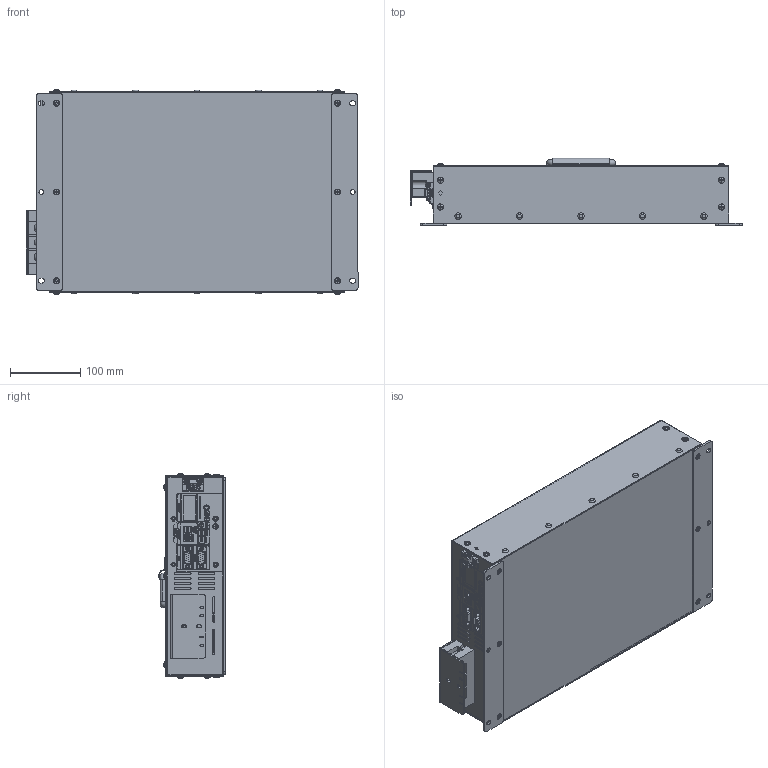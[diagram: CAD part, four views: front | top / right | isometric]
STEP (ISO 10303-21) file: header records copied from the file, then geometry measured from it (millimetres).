
FILE_DESCRIPTION(/* description */ (''),/* implementation_level */ '2;1');
FILE_NAME(/* name */ '',/* time_stamp */ '2026-05-27T08:59:49+09:00',/* author */ ('Administrator'),/* organization */ (''),/* preprocessor_version */ 'ST-DEVELOPER v20.1',/* originating_system */ 'Autodesk Inventor 2026',/* authorisation */ '');
FILE_SCHEMA (('AUTOMOTIVE_DESIGN { 1 0 10303 214 3 1 1 }'));
Products named in the file (1): [OLED]VW2COM_HANDLES2S_단순화_2
Bounding box: 471.22 x 95.2 x 290.84 mm (x, y, z)
Volume: 718272.5 mm3; surface area: 874649.7 mm2
Topology: 13 solids, 13 shells, 5596 faces, 14741 edges, 9636 vertices
Faces by surface type: plane 3162, bspline 1185, cylinder 1077, torus 110, cone 38, sphere 24
Full cylindrical faces by diameter (mm): 0.013 x9, 0.6 x3, 0.609 x1, 0.61 x27, 0.635 x9, 0.7 x18, 0.75 x18, 0.85 x3, 0.9 x22, 1 x5, 1.397 x9, 1.4 x2, 1.5 x4, 2.1 x2, 2.286 x9, 2.5 x4, 2.8 x8, 2.957 x4, 3 x6, 3.048 x4, 3.4 x5, 3.6 x4, 3.783 x2, 3.8 x38, 3.9 x2, 4 x21, 4.3 x8, 4.5 x16, 5 x9, 5.3 x20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
Entity records: 201543 total; most frequent: CARTESIAN_POINT 62933, ORIENTED_EDGE 29446, DIRECTION 23737, EDGE_CURVE 14723, VERTEX_POINT 9636, LINE 9295, VECTOR 9295, AXIS2_PLACEMENT_3D 7221
